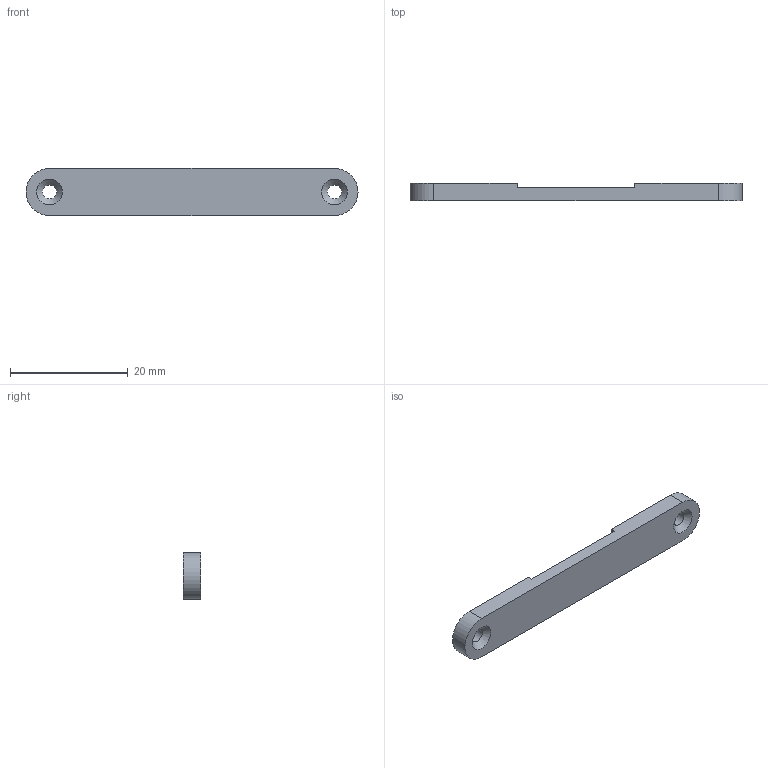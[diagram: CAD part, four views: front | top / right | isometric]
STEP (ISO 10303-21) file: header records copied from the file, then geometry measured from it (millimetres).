
FILE_DESCRIPTION(('Open CASCADE Model'),'2;1');
FILE_NAME('Open CASCADE Shape Model','2026-10-05T16:07:19',('Author'),( 'Open CASCADE'),'Open CASCADE STEP processor 7.9','Open CASCADE 7.9' ,'Unknown');
FILE_SCHEMA(('AUTOMOTIVE_DESIGN { 1 0 10303 214 1 1 1 1 }'));
Length unit declared in the file: millimetre
Products named in the file (1): Open CASCADE STEP translator 7.9 7
Bounding box: 56.5 x 3 x 8 mm (x, y, z)
Volume: 1150 mm3; surface area: 1244.6 mm2
Topology: 1 solids, 1 shells, 14 faces, 34 edges, 22 vertices
Faces by surface type: plane 8, cylinder 4, cone 2
Full cylindrical faces by diameter (mm): 2.4 x2
Entity records: 854 total; most frequent: CARTESIAN_POINT 157, DIRECTION 124, ORIENTED_EDGE 68, PCURVE 68, DEFINITIONAL_REPRESENTATION 68, LINE 66, VECTOR 66, EDGE_CURVE 34
